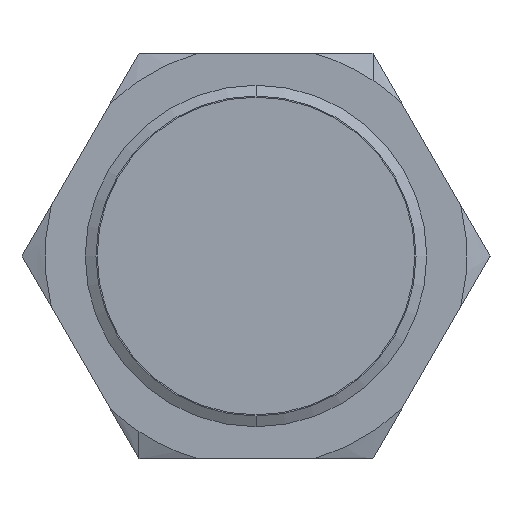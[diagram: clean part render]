
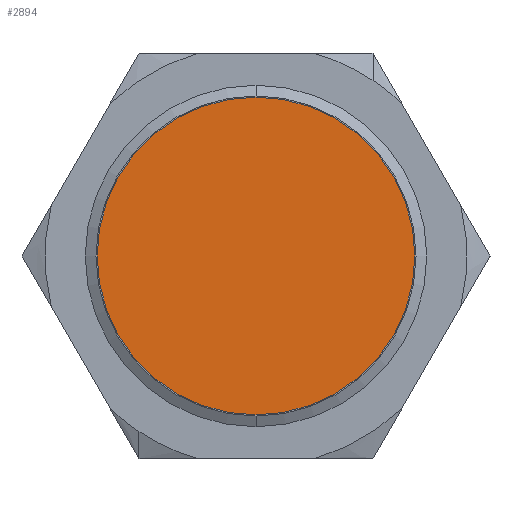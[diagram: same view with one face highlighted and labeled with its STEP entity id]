
A CAD part, left-side view. The second image highlights one B-rep face of the part: STEP entity #2894.
In plain terms, the highlighted planar face has unit normal (-1, 0, 0).
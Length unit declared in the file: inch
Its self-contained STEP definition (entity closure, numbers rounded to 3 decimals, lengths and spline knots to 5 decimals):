
#100 = VERTEX_POINT ( 'NONE', #1862 ) ;
#1631 = ORIENTED_EDGE ( 'NONE', *, *, #8986, .F. ) ;
#1862 = CARTESIAN_POINT ( 'NONE',  ( 0., 0., -0.55 ) ) ;
#2149 = ORIENTED_EDGE ( 'NONE', *, *, #3284, .F. ) ;
#2663 = EDGE_LOOP ( 'NONE', ( #2149, #1631 ) ) ;
#2894 = ADVANCED_FACE ( 'NONE', ( #2915 ), #2916, .F. ) ;
#2915 = FACE_OUTER_BOUND ( 'NONE', #2663, .T. ) ;
#2916 = PLANE ( 'NONE',  #2917 ) ;
#2917 = AXIS2_PLACEMENT_3D ( 'NONE', #2918, #2919, #2920 ) ;
#2918 = CARTESIAN_POINT ( 'NONE',  ( 0., 0., 0. ) ) ;
#2919 = DIRECTION ( 'NONE',  ( 1., 0., 0. ) ) ;
#2920 = DIRECTION ( 'NONE',  ( 0., 0., -1. ) ) ;
#3230 = CIRCLE ( 'NONE', #3231, 0.55 ) ;
#3231 = AXIS2_PLACEMENT_3D ( 'NONE', #3232, #3233, #3234 ) ;
#3232 = CARTESIAN_POINT ( 'NONE',  ( 0., 0., 0. ) ) ;
#3233 = DIRECTION ( 'NONE',  ( 1., 0., 0. ) ) ;
#3234 = DIRECTION ( 'NONE',  ( 0., 0., 1. ) ) ;
#3284 = EDGE_CURVE ( 'NONE', #8962, #100, #3230, .T. ) ;
#7172 = CARTESIAN_POINT ( 'NONE',  ( 0., 0., 0.55 ) ) ;
#7297 = CIRCLE ( 'NONE', #7298, 0.55 ) ;
#7298 = AXIS2_PLACEMENT_3D ( 'NONE', #7299, #7300, #7301 ) ;
#7299 = CARTESIAN_POINT ( 'NONE',  ( 0., 0., 0. ) ) ;
#7300 = DIRECTION ( 'NONE',  ( 1., 0., 0. ) ) ;
#7301 = DIRECTION ( 'NONE',  ( 0., 0., 1. ) ) ;
#8962 = VERTEX_POINT ( 'NONE', #7172 ) ;
#8986 = EDGE_CURVE ( 'NONE', #100, #8962, #7297, .T. ) ;
